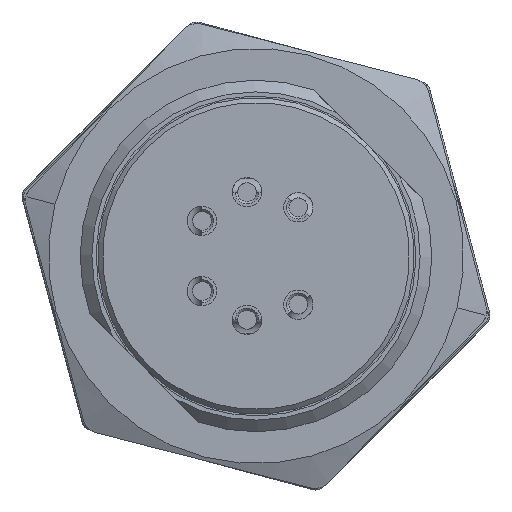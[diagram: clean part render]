
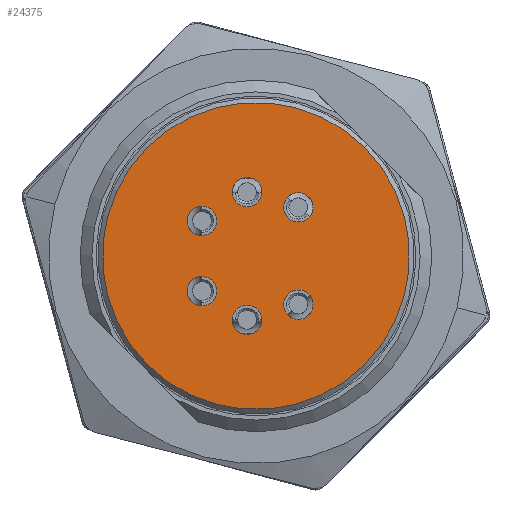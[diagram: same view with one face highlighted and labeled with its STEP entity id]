
A CAD part, left-side view. The second image highlights one B-rep face of the part: STEP entity #24375.
In plain terms, the highlighted planar face has unit normal (-1, 0, 0).
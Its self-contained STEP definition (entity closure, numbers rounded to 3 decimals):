
#6922=CARTESIAN_POINT('',(-20.,0.,0.));
#6923=DIRECTION('',(-1.,0.,0.));
#6924=DIRECTION('',(0.,-0.707,0.707));
#6925=AXIS2_PLACEMENT_3D('',#6922,#6923,#6924);
#6927=CARTESIAN_POINT('',(-20.,0.,0.));
#6928=DIRECTION('',(-1.,0.,0.));
#6929=DIRECTION('',(0.,0.707,-0.707));
#6930=AXIS2_PLACEMENT_3D('',#6927,#6928,#6929);
#6932=CARTESIAN_POINT('',(-20.,2.306,-1.498));
#6933=DIRECTION('',(-1.,0.,0.));
#6934=DIRECTION('',(0.,1.,0.));
#6935=AXIS2_PLACEMENT_3D('',#6932,#6933,#6934);
#6975=CARTESIAN_POINT('',(-20.,2.306,-1.498));
#6976=DIRECTION('',(-1.,0.,0.));
#6977=DIRECTION('',(0.,-1.,0.));
#6978=AXIS2_PLACEMENT_3D('',#6975,#6976,#6977);
#7143=CARTESIAN_POINT('',(-20.,2.306,1.498));
#7144=DIRECTION('',(-1.,0.,0.));
#7145=DIRECTION('',(0.,1.,0.));
#7146=AXIS2_PLACEMENT_3D('',#7143,#7144,#7145);
#7186=CARTESIAN_POINT('',(-20.,2.306,1.498));
#7187=DIRECTION('',(-1.,0.,0.));
#7188=DIRECTION('',(0.,-1.,0.));
#7189=AXIS2_PLACEMENT_3D('',#7186,#7187,#7188);
#7354=CARTESIAN_POINT('',(-20.,0.383,2.723));
#7355=DIRECTION('',(-1.,0.,0.));
#7356=DIRECTION('',(0.,0.,1.));
#7357=AXIS2_PLACEMENT_3D('',#7354,#7355,#7356);
#7397=CARTESIAN_POINT('',(-20.,0.383,2.723));
#7398=DIRECTION('',(-1.,0.,0.));
#7399=DIRECTION('',(0.,0.,-1.));
#7400=AXIS2_PLACEMENT_3D('',#7397,#7398,#7399);
#7565=CARTESIAN_POINT('',(-20.,0.383,-2.723));
#7566=DIRECTION('',(-1.,0.,0.));
#7567=DIRECTION('',(0.,0.,-1.));
#7568=AXIS2_PLACEMENT_3D('',#7565,#7566,#7567);
#7608=CARTESIAN_POINT('',(-20.,0.383,-2.723));
#7609=DIRECTION('',(-1.,0.,0.));
#7610=DIRECTION('',(0.,0.,1.));
#7611=AXIS2_PLACEMENT_3D('',#7608,#7609,#7610);
#7776=CARTESIAN_POINT('',(-20.,-1.804,2.075));
#7777=DIRECTION('',(-1.,0.,0.));
#7778=DIRECTION('',(0.,-0.643,0.766));
#7779=AXIS2_PLACEMENT_3D('',#7776,#7777,#7778);
#7819=CARTESIAN_POINT('',(-20.,-1.804,2.075));
#7820=DIRECTION('',(-1.,0.,0.));
#7821=DIRECTION('',(0.,0.643,-0.766));
#7822=AXIS2_PLACEMENT_3D('',#7819,#7820,#7821);
#7987=CARTESIAN_POINT('',(-20.,-1.804,-2.075));
#7988=DIRECTION('',(-1.,0.,0.));
#7989=DIRECTION('',(0.,-0.643,-0.766));
#7990=AXIS2_PLACEMENT_3D('',#7987,#7988,#7989);
#8030=CARTESIAN_POINT('',(-20.,-1.804,-2.075));
#8031=DIRECTION('',(-1.,0.,0.));
#8032=DIRECTION('',(0.,0.643,0.766));
#8033=AXIS2_PLACEMENT_3D('',#8030,#8031,#8032);
#11741=CARTESIAN_POINT('',(-20.,-4.632,4.632));
#11742=CARTESIAN_POINT('',(-20.,4.632,-4.632));
#11743=VERTEX_POINT('',#11741);
#11744=VERTEX_POINT('',#11742);
#12522=CARTESIAN_POINT('',(-20.,-2.206,-2.554));
#12523=CARTESIAN_POINT('',(-20.,-1.402,-1.597));
#12524=VERTEX_POINT('',#12522);
#12525=VERTEX_POINT('',#12523);
#12534=CARTESIAN_POINT('',(-20.,-2.206,2.554));
#12535=CARTESIAN_POINT('',(-20.,-1.402,1.597));
#12536=VERTEX_POINT('',#12534);
#12537=VERTEX_POINT('',#12535);
#12546=CARTESIAN_POINT('',(-20.,0.383,-3.348));
#12547=CARTESIAN_POINT('',(-20.,0.383,-2.098));
#12548=VERTEX_POINT('',#12546);
#12549=VERTEX_POINT('',#12547);
#12558=CARTESIAN_POINT('',(-20.,0.383,3.348));
#12559=CARTESIAN_POINT('',(-20.,0.383,2.098));
#12560=VERTEX_POINT('',#12558);
#12561=VERTEX_POINT('',#12559);
#12570=CARTESIAN_POINT('',(-20.,2.931,1.498));
#12571=CARTESIAN_POINT('',(-20.,1.681,1.498));
#12572=VERTEX_POINT('',#12570);
#12573=VERTEX_POINT('',#12571);
#12582=CARTESIAN_POINT('',(-20.,2.931,-1.498));
#12583=CARTESIAN_POINT('',(-20.,1.681,-1.498));
#12584=VERTEX_POINT('',#12582);
#12585=VERTEX_POINT('',#12583);
#24329=CARTESIAN_POINT('',(-20.,0.,0.));
#24330=DIRECTION('',(1.,0.,0.));
#24331=DIRECTION('',(0.,0.707,-0.707));
#24332=AXIS2_PLACEMENT_3D('',#24329,#24330,#24331);
#24333=PLANE('',#24332);
#24334=ORIENTED_EDGE('',*,*,#24198,.F.);
#24336=ORIENTED_EDGE('',*,*,#24335,.F.);
#24337=EDGE_LOOP('',(#24334,#24336));
#24338=FACE_OUTER_BOUND('',#24337,.F.);
#24340=ORIENTED_EDGE('',*,*,#24339,.T.);
#24342=ORIENTED_EDGE('',*,*,#24341,.T.);
#24343=EDGE_LOOP('',(#24340,#24342));
#24344=FACE_BOUND('',#24343,.F.);
#24346=ORIENTED_EDGE('',*,*,#24345,.T.);
#24348=ORIENTED_EDGE('',*,*,#24347,.T.);
#24349=EDGE_LOOP('',(#24346,#24348));
#24350=FACE_BOUND('',#24349,.F.);
#24352=ORIENTED_EDGE('',*,*,#24351,.T.);
#24354=ORIENTED_EDGE('',*,*,#24353,.T.);
#24355=EDGE_LOOP('',(#24352,#24354));
#24356=FACE_BOUND('',#24355,.F.);
#24358=ORIENTED_EDGE('',*,*,#24357,.T.);
#24360=ORIENTED_EDGE('',*,*,#24359,.T.);
#24361=EDGE_LOOP('',(#24358,#24360));
#24362=FACE_BOUND('',#24361,.F.);
#24364=ORIENTED_EDGE('',*,*,#24363,.T.);
#24366=ORIENTED_EDGE('',*,*,#24365,.T.);
#24367=EDGE_LOOP('',(#24364,#24366));
#24368=FACE_BOUND('',#24367,.F.);
#24370=ORIENTED_EDGE('',*,*,#24369,.T.);
#24372=ORIENTED_EDGE('',*,*,#24371,.T.);
#24373=EDGE_LOOP('',(#24370,#24372));
#24374=FACE_BOUND('',#24373,.F.);
#24375=ADVANCED_FACE('',(#24338,#24344,#24350,#24356,#24362,#24368,#24374),
#24333,.F.);
#6926=CIRCLE('',#6925,6.55);
#6931=CIRCLE('',#6930,6.55);
#6936=CIRCLE('',#6935,0.625);
#6979=CIRCLE('',#6978,0.625);
#7147=CIRCLE('',#7146,0.625);
#7190=CIRCLE('',#7189,0.625);
#7358=CIRCLE('',#7357,0.625);
#7401=CIRCLE('',#7400,0.625);
#7569=CIRCLE('',#7568,0.625);
#7612=CIRCLE('',#7611,0.625);
#7780=CIRCLE('',#7779,0.625);
#7823=CIRCLE('',#7822,0.625);
#7991=CIRCLE('',#7990,0.625);
#8034=CIRCLE('',#8033,0.625);
#24198=EDGE_CURVE('',#11743,#11744,#6926,.T.);
#24335=EDGE_CURVE('',#11744,#11743,#6931,.T.);
#24339=EDGE_CURVE('',#12584,#12585,#6936,.T.);
#24341=EDGE_CURVE('',#12585,#12584,#6979,.T.);
#24345=EDGE_CURVE('',#12572,#12573,#7147,.T.);
#24347=EDGE_CURVE('',#12573,#12572,#7190,.T.);
#24351=EDGE_CURVE('',#12560,#12561,#7358,.T.);
#24353=EDGE_CURVE('',#12561,#12560,#7401,.T.);
#24357=EDGE_CURVE('',#12548,#12549,#7569,.T.);
#24359=EDGE_CURVE('',#12549,#12548,#7612,.T.);
#24363=EDGE_CURVE('',#12536,#12537,#7780,.T.);
#24365=EDGE_CURVE('',#12537,#12536,#7823,.T.);
#24369=EDGE_CURVE('',#12524,#12525,#7991,.T.);
#24371=EDGE_CURVE('',#12525,#12524,#8034,.T.);
